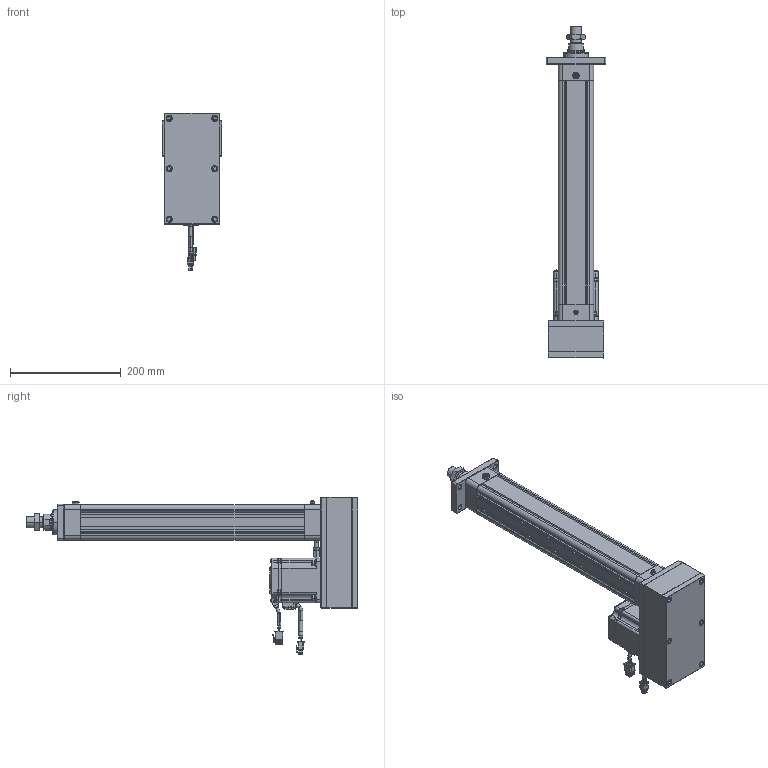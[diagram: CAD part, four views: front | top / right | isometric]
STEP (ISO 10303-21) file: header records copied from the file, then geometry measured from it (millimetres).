
FILE_DESCRIPTION((''),'2;1');
FILE_NAME('ASM0001_ASM','2020-04-16T',('ASUS20200'),(''),'CREO PARAMETRIC BY PTC INC, 2014190','CREO PARAMETRIC BY PTC INC, 2014190','');
FILE_SCHEMA(('CONFIG_CONTROL_DESIGN'));
Length unit declared in the file: millimetre
Products named in the file (31): HE50-D-P-001-X1; HE50-D-P-002-X1; HE50-D-P-003-X1; 6301ZZ; LGLM-M8-22; SLM-01; YZ-M6X1; HE50-P-010-X1-400W; _MHMF082L1A2; _CABLE_MOTOR_BOTTOM_05; _CABLE_MOTOR_TOP_05; _MOTOR_CONNECTOR_2; _CABLE_BRAKE_BOTTOM_05; _CABLE_BRAKE_TOP_05; _MHMF_CONNECTOR_9_PIN_A6; MHMF082L1A2M2_1_ASM; TD-6; M6X25; LM-M6X1; JX6X6X20; M6X25-DS; LM-M6-15; HE50-P-012-X1; HE50-P-013-X1; M6X60; HE50-D-P-005-X1; HE50-D-P-004-X1; HE50-D-P-008-X1; F-SE50FA; M8X16; ASM0001_ASM
Assembly tree (55 placements, depth 3):
  ASM0001_ASM
    HE50-D-P-001-X1
    HE50-D-P-002-X1
    HE50-D-P-003-X1
    6301ZZ
    LGLM-M8-22  x8
    SLM-01
    YZ-M6X1
    HE50-P-010-X1-400W
    MHMF082L1A2M2_1_ASM
      _MHMF082L1A2
      _CABLE_MOTOR_BOTTOM_05
      _CABLE_MOTOR_TOP_05
      _MOTOR_CONNECTOR_2
      _CABLE_BRAKE_BOTTOM_05
      _CABLE_BRAKE_TOP_05
      _MHMF_CONNECTOR_9_PIN_A6
    TD-6  x4
    M6X25  x4
    LM-M6X1  x5
    JX6X6X20
    M6X25-DS
    LM-M6-15
    HE50-P-012-X1
    HE50-P-013-X1
    M6X60  x6
    HE50-D-P-005-X1
    HE50-D-P-004-X1
    HE50-D-P-008-X1
    F-SE50FA
    M8X16  x4
Bounding box: 108 x 598.5 x 283.65 mm (x, y, z)
Volume: 2175043.6 mm3; surface area: 607117.4 mm2
Topology: 54 solids, 84 shells, 2871 faces, 6873 edges, 4270 vertices
Faces by surface type: plane 1216, cylinder 785, cone 671, torus 154, sphere 42, bspline 3
Entity records: 67975 total; most frequent: CARTESIAN_POINT 12752, DIRECTION 12169, ORIENTED_EDGE 10782, EDGE_CURVE 5441, AXIS2_PLACEMENT_3D 4570, VERTEX_POINT 3411, VECTOR 3029, LINE 3029
